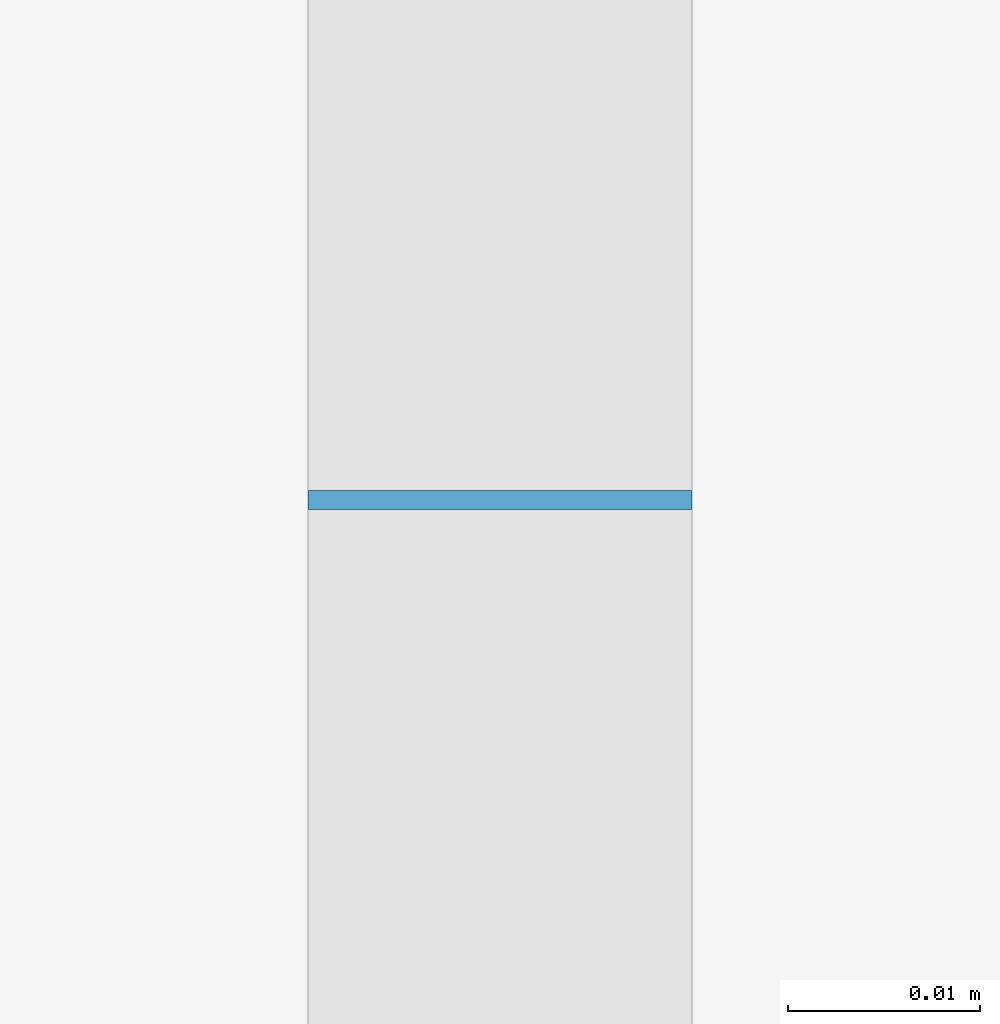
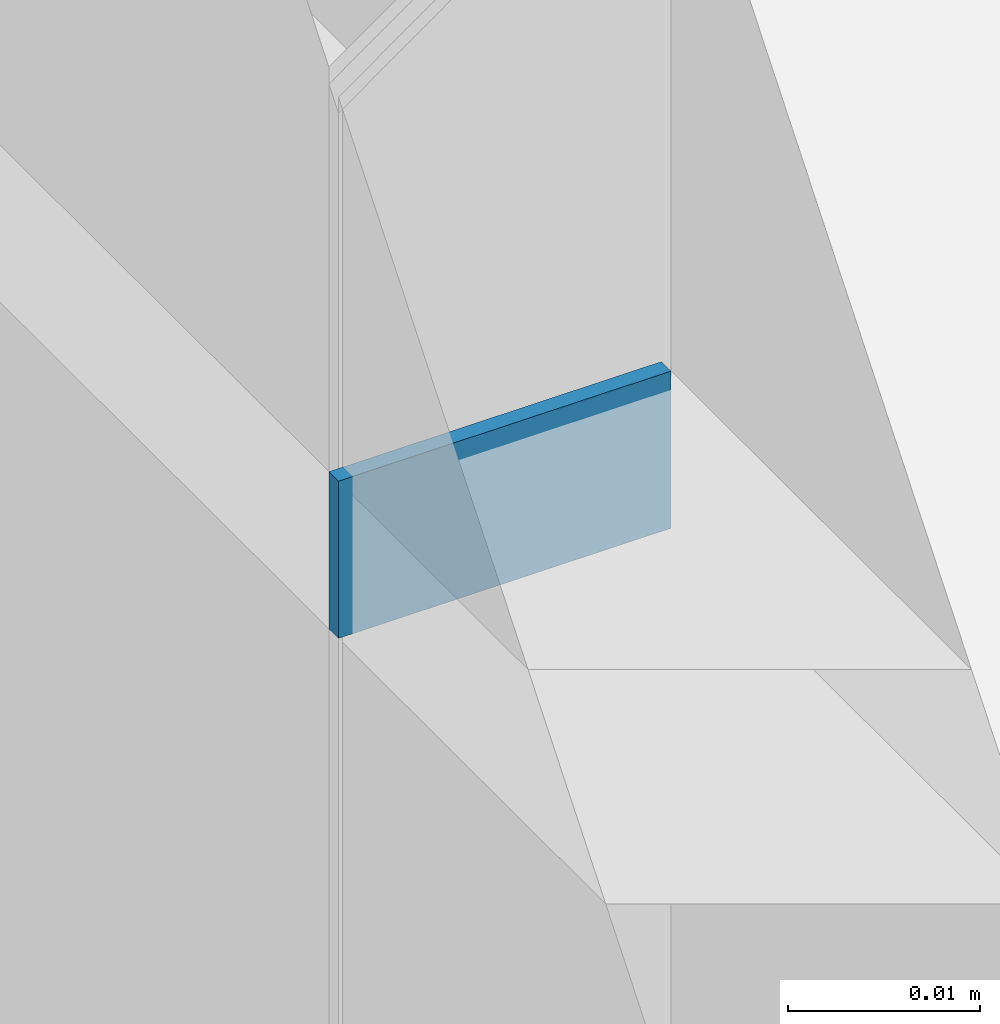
# One storey, part 41 of 66: 1 plate, 1 element without a shape of its own.
"""IFC2X3 building model written with IfcOpenShell, lengths in millimetres."""

from ifc_helpers import new_model, entity, si_unit, converted_unit, derived_unit, direction, frame, origin, origin_2d_with_axis, place, context, subcontext, project, spatial, rectangle, extrude, source, transform, mapped, material, layer, layer_set, layer_usage, type_object, type_shapes, element, aggregate, save


model = new_model("IFC2X3")

# Units and contexts
model_context = context("Model", 3, precision=0.01, world=origin(), true_north=direction((6.12303176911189e-17, 1.0)))
body_context = subcontext(model_context, "Body", "Model", "MODEL_VIEW")
ifc_project = project(units=[si_unit("LENGTHUNIT", "METRE", prefix="MILLI"), si_unit("AREAUNIT", "SQUARE_METRE"), si_unit("VOLUMEUNIT", "CUBIC_METRE"), converted_unit("PLANEANGLEUNIT", "DEGREE", entity("IfcRatioMeasure", 0.0174532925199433), si_unit("PLANEANGLEUNIT", "RADIAN"), dimensions=[0, 0, 0, 0, 0, 0, 0]), si_unit("MASSUNIT", "GRAM", prefix="KILO"), derived_unit("MASSDENSITYUNIT", [(si_unit("MASSUNIT", "GRAM", prefix="KILO"), 1), (si_unit("LENGTHUNIT", "METRE"), -3)]), si_unit("TIMEUNIT", "SECOND"), si_unit("FREQUENCYUNIT", "HERTZ"), si_unit("THERMODYNAMICTEMPERATUREUNIT", "DEGREE_CELSIUS"), derived_unit("THERMALTRANSMITTANCEUNIT", [(si_unit("MASSUNIT", "GRAM", prefix="KILO"), 1), (si_unit("THERMODYNAMICTEMPERATUREUNIT", "KELVIN"), -1), (si_unit("TIMEUNIT", "SECOND"), -3)]), derived_unit("VOLUMETRICFLOWRATEUNIT", [(si_unit("LENGTHUNIT", "METRE"), 3), (si_unit("TIMEUNIT", "SECOND"), -1)]), si_unit("ELECTRICCURRENTUNIT", "AMPERE"), si_unit("ELECTRICVOLTAGEUNIT", "VOLT"), si_unit("POWERUNIT", "WATT"), si_unit("FORCEUNIT", "NEWTON", prefix="KILO"), si_unit("ILLUMINANCEUNIT", "LUX"), si_unit("LUMINOUSFLUXUNIT", "LUMEN"), si_unit("LUMINOUSINTENSITYUNIT", "CANDELA"), derived_unit("USERDEFINED", [(si_unit("MASSUNIT", "GRAM", prefix="KILO"), -1), (si_unit("LENGTHUNIT", "METRE"), -2), (si_unit("TIMEUNIT", "SECOND"), 3), (si_unit("LUMINOUSFLUXUNIT", "LUMEN"), 1)]), derived_unit("LINEARVELOCITYUNIT", [(si_unit("LENGTHUNIT", "METRE"), 1), (si_unit("TIMEUNIT", "SECOND"), -1)]), si_unit("PRESSUREUNIT", "PASCAL"), derived_unit("USERDEFINED", [(si_unit("LENGTHUNIT", "METRE"), -2), (si_unit("MASSUNIT", "GRAM", prefix="KILO"), 1), (si_unit("TIMEUNIT", "SECOND"), -2)])], contexts=[model_context])

# Site, building, storey
site_placement = place(None, frame((-151.875543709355, 2715.0, 0.0)))
site = spatial("IfcSite", under=ifc_project, at=site_placement, Name="Surface", CompositionType="ELEMENT")
building_placement = place(site_placement, origin())
building = spatial("IfcBuilding", under=site, at=building_placement, CompositionType="ELEMENT")
storey_placement = place(building_placement, frame((0.0, 0.0, 3350.0)))
storey = spatial("IfcBuildingStorey", under=building, at=storey_placement, Name="2 korrus", CompositionType="ELEMENT", Elevation=3350.00000000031)

# Curtain wall, plate
curtain_wall_type = type_object("IfcCurtainWallType", Name="Curtain Wall:Klaassein KLS-05", PredefinedType="NOTDEFINED")
curtain_wall_placement = place(storey_placement, frame((0.0, 0.0, -3350.0)))
curtain_wall = element("IfcCurtainWall", 1, at=curtain_wall_placement, inside=storey, type_object=curtain_wall_type, Name="Curtain Wall:Klaassein KLS-05", ObjectType="Curtain Wall:Klaassein KLS-05")
ifc_material = material(Name="<Unnamed>")
ifc_layer = layer(ifc_material, 20.0)
ifc_layer_set = layer_set([ifc_layer], Name="Curtain Wall:Klaassein KLS-01")
ifc_layer_usage = layer_usage(ifc_layer_set, "AXIS3", "POSITIVE", 0.0)
plate_type = type_object("IfcPlateType", Name="Glazed", PredefinedType="CURTAIN_PANEL", material=ifc_layer_set)
shared_shape = source(origin(), body_context, "Body", "SweptSolid", [
    extrude(rectangle(XDim=20.0, YDim=0.999999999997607, at=origin_2d_with_axis()), frame((0.0, 0.0, 0.0), z_axis=(0.0, 0.0, 1.0), x_axis=(0.0, 1.0, 0.0)), (0.0, 0.0, 1.0), 9.99999999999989),
])
type_shapes(plate_type, [shared_shape])
plate_placement = place(curtain_wall_placement, frame((27053.2859998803, 7104.41988145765, 5440.0), z_axis=(0.0, 0.0, 1.0), x_axis=(0.0, 1.0, 0.0)))
plate = element("IfcPlate", 2, at=plate_placement, type_object=plate_type, material=ifc_layer_usage, Name="System Panel:Glazed", ObjectType="Glazed", context=body_context, shape_type="MappedRepresentation", body=[
    mapped(shared_shape, transform((0.0, 0.0, 0.0), scale=1.0)),
])
aggregate(curtain_wall, [plate])

save(model, "model.ifc")
